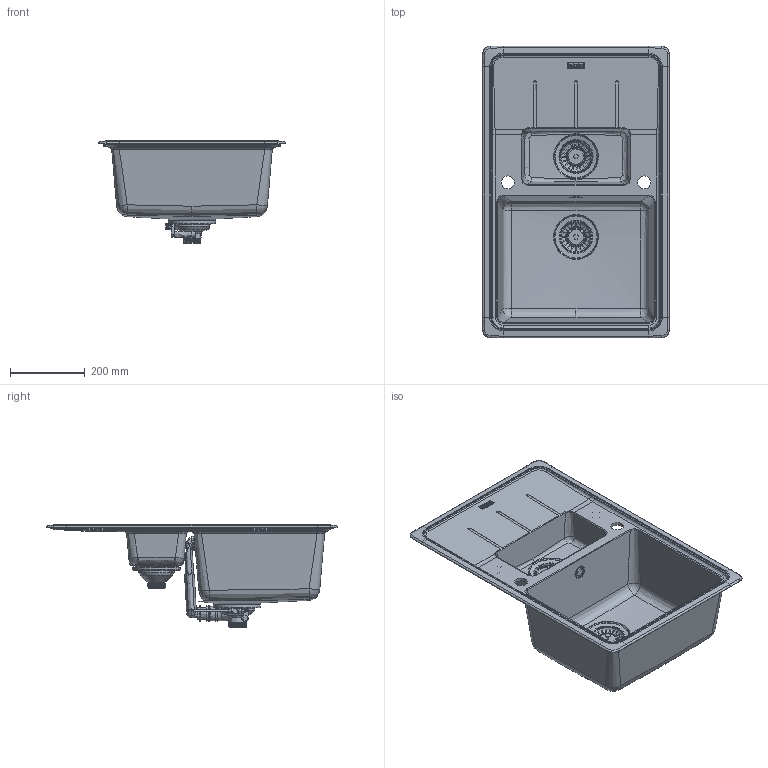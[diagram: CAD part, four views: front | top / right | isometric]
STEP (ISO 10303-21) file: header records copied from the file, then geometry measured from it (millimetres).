
FILE_DESCRIPTION(/* description */ (''),/* implementation_level */ '2;1');
FILE_NAME(/* name */ '3D001_Sinks_Basis_BFG-651-78',/* time_stamp */ '2024-06-26T15:38:51+02:00',/* author */ (''),/* organization */ (''),/* preprocessor_version */ 'ST-DEVELOPER v19.2',/* originating_system */ 'Rhino 8.7',/* authorisation */ '');
FILE_SCHEMA (('CONFIG_CONTROL_DESIGN'));
Products named in the file (3): Document; 20127516_tpm_000; Blocco 04
Bounding box: 499.86 x 779.86 x 273.5 mm (x, y, z)
Volume: 5364716 mm3; surface area: 1523649.4 mm2
Topology: 9 solids, 13 shells, 3090 faces, 8433 edges, 5422 vertices
Faces by surface type: plane 1739, bspline 822, cylinder 529
Full cylindrical faces by diameter (mm): 4.125 x1, 5 x3, 6 x2, 7.5 x3, 8 x1, 14 x2, 14.3 x1, 23.8 x1, 24 x1, 25 x2, 27.5 x1, 30 x3, 31 x1, 35 x4, 36 x3, 39 x1, 39.5 x1, 42 x3, 45 x2, 45.5 x1, 48 x1, 83.403 x1, 84 x2, 90 x1, 119 x1, 126 x2
Entity records: 173837 total; most frequent: CARTESIAN_POINT 107160, ORIENTED_EDGE 16779, EDGE_CURVE 8404, DIRECTION 7864, VERTEX_POINT 5423, B_SPLINE_CURVE_WITH_KNOTS 5274, AXIS2_PLACEMENT_3D 5066, EDGE_LOOP 3256
